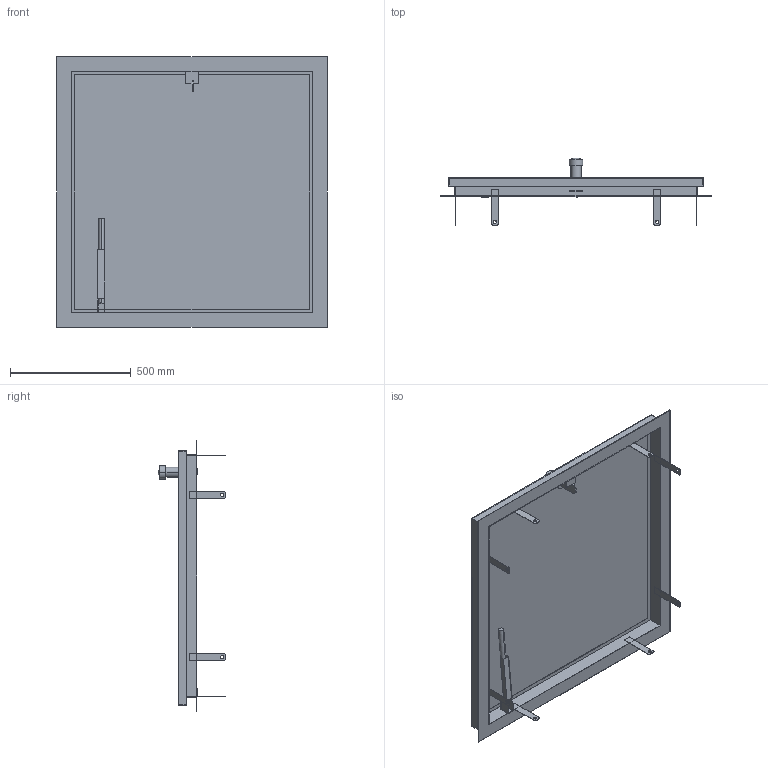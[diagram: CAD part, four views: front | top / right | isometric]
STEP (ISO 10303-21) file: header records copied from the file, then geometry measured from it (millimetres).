
FILE_DESCRIPTION((''),'2;1');
FILE_NAME('52335836','2024-12-19T07:40:05',('wep'),('HUBER SE'),'CREO PARAMETRIC BY PTC INC, 2022162','CREO PARAMETRIC BY PTC INC, 2022162','');
FILE_SCHEMA(('AUTOMOTIVE_DESIGN { 1 0 10303 214 1 1 1 1 }'));
Length unit declared in the file: millimetre
Products named in the file (1): 52335836
Bounding box: 1120 x 279 x 1120 mm (x, y, z)
Volume: 3987407.6 mm3; surface area: 3746750.5 mm2
Topology: 4 solids, 4 shells, 728 faces, 1984 edges, 1315 vertices
Faces by surface type: plane 416, extrusion 275, cylinder 35, sphere 2
Entity records: 24768 total; most frequent: CARTESIAN_POINT 6658, ORIENTED_EDGE 3964, DIRECTION 2685, EDGE_CURVE 1982, VECTOR 1635, LINE 1360, VERTEX_POINT 1315, B_SPLINE_CURVE_WITH_KNOTS 825
